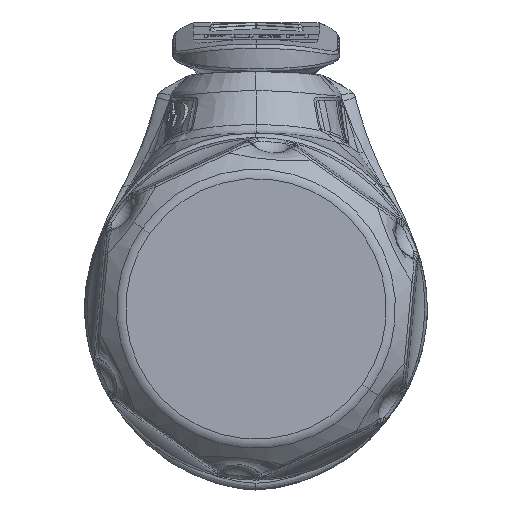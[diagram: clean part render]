
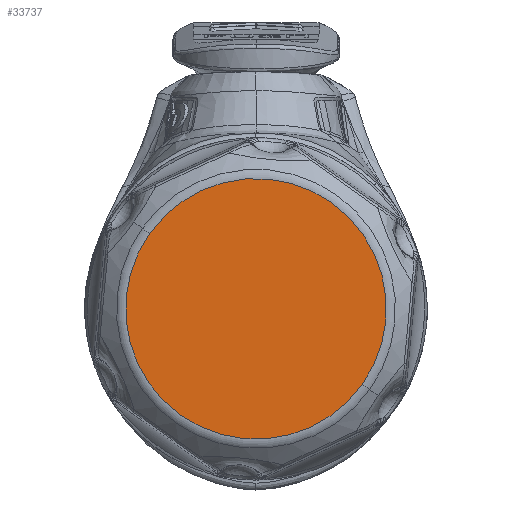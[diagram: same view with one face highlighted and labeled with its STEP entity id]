
A CAD part, front view. The second image highlights one B-rep face of the part: STEP entity #33737.
In plain terms, the highlighted planar face has unit normal (0, -1, 0).
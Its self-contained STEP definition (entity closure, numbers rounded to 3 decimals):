
#423 = ORIENTED_EDGE ( 'NONE', *, *, #79522, .F. ) ;
#439 = CARTESIAN_POINT ( 'NONE',  ( 7.759, -44.335, -5.51 ) ) ;
#3160 = ORIENTED_EDGE ( 'NONE', *, *, #13000, .F. ) ;
#13000 = EDGE_CURVE ( 'NONE', #14778, #24782, #55067, .T. ) ;
#14778 = VERTEX_POINT ( 'NONE', #439 ) ;
#16066 = PLANE ( 'NONE',  #73489 ) ;
#24782 = VERTEX_POINT ( 'NONE', #42081 ) ;
#30703 = AXIS2_PLACEMENT_3D ( 'NONE', #33977, #74886, #57984 ) ;
#33737 = ADVANCED_FACE ( 'NONE', ( #42226 ), #16066, .T. ) ;
#33977 = CARTESIAN_POINT ( 'NONE',  ( 0., -44.335, 0. ) ) ;
#34025 = DIRECTION ( 'NONE',  ( 0., -1., 0. ) ) ;
#36887 = CIRCLE ( 'NONE', #97808, 9.516 ) ;
#42081 = CARTESIAN_POINT ( 'NONE',  ( -7.759, -44.335, 5.51 ) ) ;
#42226 = FACE_OUTER_BOUND ( 'NONE', #90012, .T. ) ;
#55067 = CIRCLE ( 'NONE', #30703, 9.516 ) ;
#56561 = CARTESIAN_POINT ( 'NONE',  ( 0., -44.335, 0. ) ) ;
#57984 = DIRECTION ( 'NONE',  ( 0., 0., 1. ) ) ;
#65291 = DIRECTION ( 'NONE',  ( 0., 1., 0. ) ) ;
#73489 = AXIS2_PLACEMENT_3D ( 'NONE', #107627, #34025, #99984 ) ;
#74886 = DIRECTION ( 'NONE',  ( 0., 1., 0. ) ) ;
#79522 = EDGE_CURVE ( 'NONE', #24782, #14778, #36887, .T. ) ;
#90012 = EDGE_LOOP ( 'NONE', ( #3160, #423 ) ) ;
#97808 = AXIS2_PLACEMENT_3D ( 'NONE', #56561, #65291, #100104 ) ;
#99984 = DIRECTION ( 'NONE',  ( 0., 0., -1. ) ) ;
#100104 = DIRECTION ( 'NONE',  ( 0., 0., 1. ) ) ;
#107627 = CARTESIAN_POINT ( 'NONE',  ( 0., -44.335, 9.516 ) ) ;
